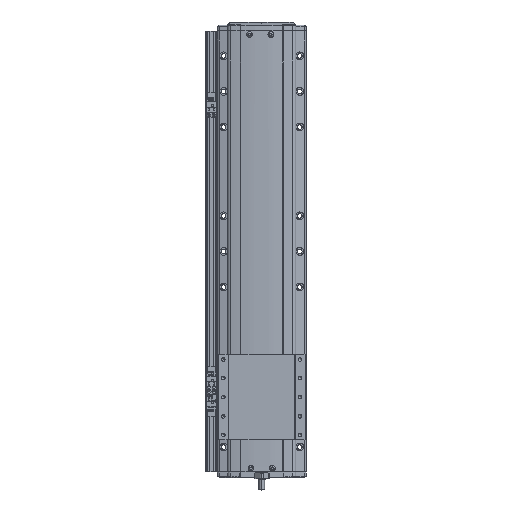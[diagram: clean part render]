
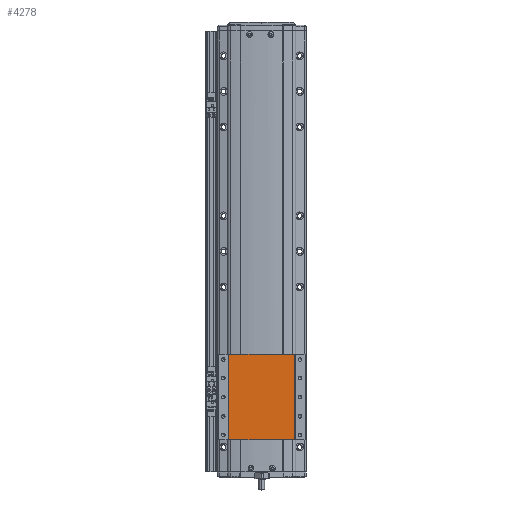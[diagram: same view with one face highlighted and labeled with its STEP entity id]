
A CAD part, top view. The second image highlights one B-rep face of the part: STEP entity #4278.
In plain terms, the highlighted planar face has unit normal (0, 0, 1).
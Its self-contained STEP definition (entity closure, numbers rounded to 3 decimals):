
#4278=ADVANCED_FACE('',(#10001),#10002,.F.);
#10001=FACE_OUTER_BOUND('',#18144,.T.);
#10002=PLANE('',#18145);
#18144=EDGE_LOOP('',(#30962,#30963,#30964,#30965));
#18145=AXIS2_PLACEMENT_3D('',#30966,#30967,#30968);
#30962=ORIENTED_EDGE('',*,*,#49505,.F.);
#30963=ORIENTED_EDGE('',*,*,#49506,.F.);
#30964=ORIENTED_EDGE('',*,*,#45613,.F.);
#30965=ORIENTED_EDGE('',*,*,#47603,.T.);
#30966=CARTESIAN_POINT('',(-300.,-132.778,36.5));
#30967=DIRECTION('',(0.,0.,-1.0));
#30968=DIRECTION('',(-1.0,0.,0.));
#45613=EDGE_CURVE('',#54356,#54358,#54359,.T.);
#47603=EDGE_CURVE('',#54356,#57843,#57846,.T.);
#49505=EDGE_CURVE('',#60850,#57843,#60851,.T.);
#49506=EDGE_CURVE('',#54358,#60850,#60852,.T.);
#54356=VERTEX_POINT('',#67103);
#54358=VERTEX_POINT('',#67105);
#54359=LINE('',#67106,#67107);
#57843=VERTEX_POINT('',#72022);
#57846=LINE('',#72025,#72026);
#60850=VERTEX_POINT('',#76538);
#60851=LINE('',#76539,#76540);
#60852=LINE('',#76541,#76542);
#67103=CARTESIAN_POINT('',(-253.624,-132.778,36.5));
#67105=CARTESIAN_POINT('',(-346.376,-132.778,36.5));
#67106=CARTESIAN_POINT('',(-253.624,-132.778,36.5));
#67107=VECTOR('',#84907,10.0);
#72022=CARTESIAN_POINT('',(-253.624,-12.778,36.5));
#72025=CARTESIAN_POINT('',(-253.624,-132.778,36.5));
#72026=VECTOR('',#87461,10.0);
#76538=CARTESIAN_POINT('',(-346.376,-12.778,36.5));
#76539=CARTESIAN_POINT('',(-253.624,-12.778,36.5));
#76540=VECTOR('',#89759,10.0);
#76541=CARTESIAN_POINT('',(-346.376,-132.778,36.5));
#76542=VECTOR('',#89760,10.0);
#84907=DIRECTION('',(-1.0,0.,0.));
#87461=DIRECTION('',(0.,1.0,0.));
#89759=DIRECTION('',(1.0,0.,0.));
#89760=DIRECTION('',(0.,1.0,0.));
